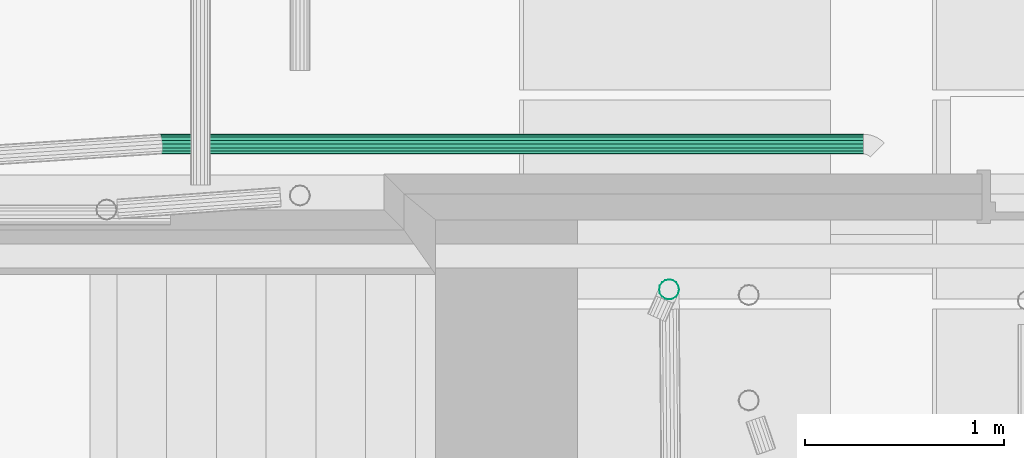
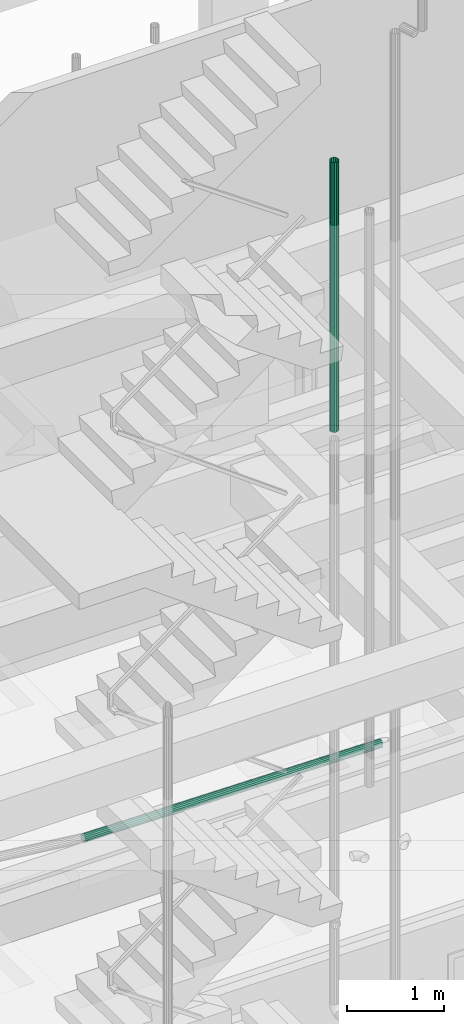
# One storey, part 53 of 106: 2 flow segments.
"""IFC2X3 building model written with IfcOpenShell, lengths in metres."""

from ifc_helpers import new_model, entity, si_unit, converted_unit, derived_unit, money_unit, direction, frame, origin_with_axes, place, context, subcontext, project, spatial, faceted_brep, material, type_object, element, save


model = new_model("IFC2X3")

# Units and contexts
model_context = context("Model", 3, precision=1e-05, world=origin_with_axes(), true_north=direction((0.0, 1.0)))
body_context = subcontext(model_context, "Body", "Model", "MODEL_VIEW", scale=1.0)
ifc_project = project(units=[si_unit("LENGTHUNIT", "METRE"), si_unit("AREAUNIT", "SQUARE_METRE"), si_unit("VOLUMEUNIT", "CUBIC_METRE"), si_unit("ABSORBEDDOSEUNIT", "GRAY"), si_unit("AMOUNTOFSUBSTANCEUNIT", "MOLE"), si_unit("DOSEEQUIVALENTUNIT", "SIEVERT"), si_unit("ELECTRICCAPACITANCEUNIT", "FARAD"), si_unit("ELECTRICCHARGEUNIT", "COULOMB"), si_unit("ELECTRICCONDUCTANCEUNIT", "SIEMENS"), si_unit("ELECTRICCURRENTUNIT", "AMPERE"), si_unit("ELECTRICRESISTANCEUNIT", "OHM"), si_unit("ELECTRICVOLTAGEUNIT", "VOLT"), si_unit("ENERGYUNIT", "JOULE"), si_unit("FORCEUNIT", "NEWTON"), si_unit("FREQUENCYUNIT", "HERTZ"), si_unit("ILLUMINANCEUNIT", "LUX"), si_unit("INDUCTANCEUNIT", "HENRY"), si_unit("LUMINOUSFLUXUNIT", "LUMEN"), si_unit("LUMINOUSINTENSITYUNIT", "CANDELA"), si_unit("MAGNETICFLUXDENSITYUNIT", "TESLA"), si_unit("MAGNETICFLUXUNIT", "WEBER"), si_unit("MASSUNIT", "GRAM"), converted_unit("PLANEANGLEUNIT", "degree", entity("IfcReal", 0.0174532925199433), si_unit("PLANEANGLEUNIT", "RADIAN"), dimensions=[0, 0, 0, 0, 0, 0, 0]), si_unit("POWERUNIT", "WATT"), si_unit("PRESSUREUNIT", "PASCAL"), si_unit("RADIOACTIVITYUNIT", "BECQUEREL"), si_unit("SOLIDANGLEUNIT", "STERADIAN"), si_unit("THERMODYNAMICTEMPERATUREUNIT", "KELVIN"), si_unit("TIMEUNIT", "SECOND"), derived_unit("ACCELERATIONUNIT", [(si_unit("LENGTHUNIT", "METRE"), 1), (si_unit("TIMEUNIT", "SECOND"), -2)]), derived_unit("ANGULARVELOCITYUNIT", [(converted_unit("PLANEANGLEUNIT", "degree", entity("IfcReal", 0.0174532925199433), si_unit("PLANEANGLEUNIT", "RADIAN"), dimensions=[0, 0, 0, 0, 0, 0, 0]), 1), (si_unit("TIMEUNIT", "SECOND"), -1)]), derived_unit("CURVATUREUNIT", [(converted_unit("PLANEANGLEUNIT", "degree", entity("IfcReal", 0.0174532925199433), si_unit("PLANEANGLEUNIT", "RADIAN"), dimensions=[0, 0, 0, 0, 0, 0, 0]), 1), (si_unit("LENGTHUNIT", "METRE"), -1)]), derived_unit("DYNAMICVISCOSITYUNIT", [(si_unit("PRESSUREUNIT", "PASCAL"), 1), (si_unit("TIMEUNIT", "SECOND"), 1)]), derived_unit("HEATFLUXDENSITYUNIT", [(si_unit("POWERUNIT", "WATT"), 1), (si_unit("LENGTHUNIT", "METRE"), -2)]), derived_unit("HEATINGVALUEUNIT", [(si_unit("ENERGYUNIT", "JOULE"), 1), (si_unit("MASSUNIT", "GRAM"), -1)]), derived_unit("INTEGERCOUNTRATEUNIT", [(si_unit("TIMEUNIT", "SECOND"), -1)]), derived_unit("IONCONCENTRATIONUNIT", [(si_unit("MASSUNIT", "GRAM"), 1), (si_unit("VOLUMEUNIT", "CUBIC_METRE"), -1)]), derived_unit("ISOTHERMALMOISTURECAPACITYUNIT", [(si_unit("VOLUMEUNIT", "CUBIC_METRE"), 1), (si_unit("MASSUNIT", "GRAM"), -1)]), derived_unit("KINEMATICVISCOSITYUNIT", [(si_unit("AREAUNIT", "SQUARE_METRE"), 1), (si_unit("TIMEUNIT", "SECOND"), -1)]), derived_unit("LINEARFORCEUNIT", [(si_unit("FORCEUNIT", "NEWTON"), 1), (si_unit("LENGTHUNIT", "METRE"), -1)]), derived_unit("LINEARMOMENTUNIT", [(si_unit("FORCEUNIT", "NEWTON"), 1), (si_unit("LENGTHUNIT", "METRE"), -1)]), derived_unit("LINEARSTIFFNESSUNIT", [(si_unit("FORCEUNIT", "NEWTON"), 1), (si_unit("LENGTHUNIT", "METRE"), -1)]), derived_unit("LINEARVELOCITYUNIT", [(si_unit("LENGTHUNIT", "METRE"), 1), (si_unit("TIMEUNIT", "SECOND"), -1)]), derived_unit("LUMINOUSINTENSITYDISTRIBUTIONUNIT", [(si_unit("LUMINOUSINTENSITYUNIT", "CANDELA"), 1), (si_unit("LUMINOUSFLUXUNIT", "LUMEN"), -1)]), derived_unit("MASSDENSITYUNIT", [(si_unit("MASSUNIT", "GRAM"), 1), (si_unit("VOLUMEUNIT", "CUBIC_METRE"), -1)]), derived_unit("MASSFLOWRATEUNIT", [(si_unit("MASSUNIT", "GRAM"), 1), (si_unit("TIMEUNIT", "SECOND"), -1)]), derived_unit("MASSPERLENGTHUNIT", [(si_unit("MASSUNIT", "GRAM"), 1), (si_unit("LENGTHUNIT", "METRE"), -1)]), derived_unit("MODULUSOFELASTICITYUNIT", [(si_unit("FORCEUNIT", "NEWTON"), 1), (si_unit("AREAUNIT", "SQUARE_METRE"), -1)]), derived_unit("MODULUSOFLINEARSUBGRADEREACTIONUNIT", [(si_unit("FORCEUNIT", "NEWTON"), 1), (si_unit("LENGTHUNIT", "METRE"), -2)]), derived_unit("MODULUSOFROTATIONALSUBGRADEREACTIONUNIT", [(si_unit("FORCEUNIT", "NEWTON"), 1), (si_unit("LENGTHUNIT", "METRE"), 1)]), derived_unit("MODULUSOFSUBGRADEREACTIONUNIT", [(si_unit("FORCEUNIT", "NEWTON"), 1), (si_unit("VOLUMEUNIT", "CUBIC_METRE"), -1)]), derived_unit("MOISTUREDIFFUSIVITYUNIT", [(si_unit("VOLUMEUNIT", "CUBIC_METRE"), 1), (si_unit("TIMEUNIT", "SECOND"), -1)]), derived_unit("MOLECULARWEIGHTUNIT", [(si_unit("MASSUNIT", "GRAM"), 1), (si_unit("AMOUNTOFSUBSTANCEUNIT", "MOLE"), -1)]), derived_unit("PLANARFORCEUNIT", [(si_unit("FORCEUNIT", "NEWTON"), 1), (si_unit("LENGTHUNIT", "METRE"), -2)]), derived_unit("ROTATIONALFREQUENCYUNIT", [(si_unit("TIMEUNIT", "SECOND"), -1)]), derived_unit("ROTATIONALMASSUNIT", [(si_unit("MASSUNIT", "GRAM"), 1), (si_unit("LENGTHUNIT", "METRE"), 2)]), derived_unit("ROTATIONALSTIFFNESSUNIT", [(si_unit("FORCEUNIT", "NEWTON"), 1), (si_unit("LENGTHUNIT", "METRE"), 1), (converted_unit("PLANEANGLEUNIT", "degree", entity("IfcReal", 0.0174532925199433), si_unit("PLANEANGLEUNIT", "RADIAN"), dimensions=[0, 0, 0, 0, 0, 0, 0]), -1)]), derived_unit("SECTIONAREAINTEGRALUNIT", [(si_unit("LENGTHUNIT", "METRE"), 5)]), derived_unit("SECTIONMODULUSUNIT", [(si_unit("LENGTHUNIT", "METRE"), 3)]), derived_unit("SHEARMODULUSUNIT", [(si_unit("FORCEUNIT", "NEWTON"), 1), (si_unit("AREAUNIT", "SQUARE_METRE"), -1)]), derived_unit("SOUNDPOWERUNIT", [(si_unit("ENERGYUNIT", "JOULE"), 1), (si_unit("TIMEUNIT", "SECOND"), -1)]), derived_unit("SPECIFICHEATCAPACITYUNIT", [(si_unit("FORCEUNIT", "NEWTON"), 1), (si_unit("MASSUNIT", "GRAM"), -1), (si_unit("THERMODYNAMICTEMPERATUREUNIT", "KELVIN"), -1)]), derived_unit("TEMPERATUREGRADIENTUNIT", [(si_unit("THERMODYNAMICTEMPERATUREUNIT", "KELVIN"), 1), (si_unit("LENGTHUNIT", "METRE"), -1)]), derived_unit("THERMALADMITTANCEUNIT", [(si_unit("POWERUNIT", "WATT"), 1), (si_unit("AREAUNIT", "SQUARE_METRE"), -1), (si_unit("THERMODYNAMICTEMPERATUREUNIT", "KELVIN"), -1)]), derived_unit("THERMALCONDUCTANCEUNIT", [(si_unit("POWERUNIT", "WATT"), 1), (si_unit("LENGTHUNIT", "METRE"), -1), (si_unit("THERMODYNAMICTEMPERATUREUNIT", "KELVIN"), -1)]), derived_unit("THERMALEXPANSIONCOEFFICIENTUNIT", [(si_unit("THERMODYNAMICTEMPERATUREUNIT", "KELVIN"), -1)]), derived_unit("THERMALRESISTANCEUNIT", [(si_unit("AREAUNIT", "SQUARE_METRE"), 1), (si_unit("POWERUNIT", "WATT"), -1)]), derived_unit("THERMALTRANSMITTANCEUNIT", [(si_unit("POWERUNIT", "WATT"), 1), (si_unit("AREAUNIT", "SQUARE_METRE"), -1), (si_unit("THERMODYNAMICTEMPERATUREUNIT", "KELVIN"), -1)]), derived_unit("TORQUEUNIT", [(si_unit("FORCEUNIT", "NEWTON"), 1), (si_unit("LENGTHUNIT", "METRE"), 1)]), derived_unit("VAPORPERMEABILITYUNIT", [(si_unit("MASSUNIT", "GRAM"), 1), (si_unit("TIMEUNIT", "SECOND"), -1)]), derived_unit("VOLUMETRICFLOWRATEUNIT", [(si_unit("VOLUMEUNIT", "CUBIC_METRE"), 1), (si_unit("TIMEUNIT", "SECOND"), -1)]), derived_unit("WARPINGCONSTANTUNIT", [(si_unit("LENGTHUNIT", "METRE"), 6)]), derived_unit("WARPINGMOMENTUNIT", [(si_unit("FORCEUNIT", "NEWTON"), 1), (si_unit("LENGTHUNIT", "METRE"), 2)]), money_unit("GBP")], contexts=[model_context])

# Site, building, storey
site_placement = place(None, origin_with_axes())
site = spatial("IfcSite", under=ifc_project, at=site_placement, Name="Site", CompositionType="ELEMENT")
building_placement = place(site_placement, origin_with_axes())
building = spatial("IfcBuilding", under=site, at=building_placement, Name="Building01", CompositionType="ELEMENT")
storey_placement = place(building_placement, origin_with_axes())
storey = spatial("IfcBuildingStorey", under=building, at=storey_placement, Name="GF", CompositionType="ELEMENT", Elevation=0.0)

# Flow segments
ifc_material = material(Name="M_BSUK_ColdWater")
pipe_segment_type = type_object("IfcPipeSegmentType", Name="M-BmpStraightpipe-DefaultPipe", PredefinedType="RIGIDSEGMENT")
flow_segment_1_placement = place(storey_placement, frame((13.049996, 9.303054, 4.827344), z_axis=(0.01249902, 0.0, 0.99992188), x_axis=(0.99992188, 0.0, -0.01249902)))
element("IfcFlowSegment", 1, at=flow_segment_1_placement, inside=storey, type_object=pipe_segment_type, material=ifc_material, Name="M-BmpStraightpipe-DefaultPipe", ObjectType="M-BmpStraightpipe-DefaultPipe", context=body_context, shape_type="Brep", body=[
    faceted_brep([(3.529669, 0.0, -0.05), (0.0, 0.0, -0.05), (0.0, 0.019134, -0.046194), (3.529669, 0.019134, -0.046194), (0.0, 0.035355, -0.035355), (3.529669, 0.035355, -0.035355), (0.0, 0.046194, -0.019134), (3.529669, 0.046194, -0.019134), (0.0, 0.05, 0.0), (3.529669, 0.05, 0.0), (0.0, 0.046194, 0.019134), (3.529669, 0.046194, 0.019134), (0.0, 0.035355, 0.035355), (3.529669, 0.035355, 0.035355), (0.0, 0.019134, 0.046194), (3.529669, 0.019134, 0.046194), (0.0, 0.0, 0.05), (3.529669, 0.0, 0.05), (0.0, -0.019134, 0.046194), (3.529669, -0.019134, 0.046194), (0.0, -0.035355, 0.035355), (3.529669, -0.035355, 0.035355), (0.0, -0.046194, 0.019134), (3.529669, -0.046194, 0.019134), (0.0, -0.05, 0.0), (3.529669, -0.05, 0.0), (0.0, -0.046194, -0.019134), (3.529669, -0.046194, -0.019134), (0.0, -0.035355, -0.035355), (3.529669, -0.035355, -0.035355), (0.0, -0.019134, -0.046194), (3.529669, -0.019134, -0.046194)], [[[0, 1, 2, 3]], [[3, 2, 4, 5]], [[5, 4, 6, 7]], [[7, 6, 8, 9]], [[9, 8, 10, 11]], [[11, 10, 12, 13]], [[13, 12, 14, 15]], [[15, 14, 16, 17]], [[17, 16, 18, 19]], [[19, 18, 20, 21]], [[21, 20, 22, 23]], [[23, 22, 24, 25]], [[25, 24, 26, 27]], [[27, 26, 28, 29]], [[29, 28, 30, 31]], [[31, 30, 1, 0]]]),
])
flow_segment_2_placement = place(storey_placement, frame((15.604265, 8.57241, 12.874919), z_axis=(1.0, 0.0, 0.0), x_axis=(0.0, 0.0, -1.0)))
element("IfcFlowSegment", 2, at=flow_segment_2_placement, inside=storey, type_object=pipe_segment_type, material=ifc_material, Name="M-BmpStraightpipe-DefaultPipe", ObjectType="M-BmpStraightpipe-DefaultPipe", context=body_context, shape_type="Brep", body=[
    faceted_brep([(3.379988, 0.0, -0.05), (0.0, 0.0, -0.05), (0.0, 0.019134, -0.046194), (3.379988, 0.019134, -0.046194), (0.0, 0.035355, -0.035355), (3.379988, 0.035355, -0.035355), (0.0, 0.046194, -0.019134), (3.379988, 0.046194, -0.019134), (0.0, 0.05, 0.0), (3.379988, 0.05, 0.0), (0.0, 0.046194, 0.019134), (3.379988, 0.046194, 0.019134), (0.0, 0.035355, 0.035355), (3.379988, 0.035355, 0.035355), (0.0, 0.019134, 0.046194), (3.379988, 0.019134, 0.046194), (0.0, 0.0, 0.05), (3.379988, 0.0, 0.05), (0.0, -0.019134, 0.046194), (3.379988, -0.019134, 0.046194), (0.0, -0.035355, 0.035355), (3.379988, -0.035355, 0.035355), (0.0, -0.046194, 0.019134), (3.379988, -0.046194, 0.019134), (0.0, -0.05, 0.0), (3.379988, -0.05, 0.0), (0.0, -0.046194, -0.019134), (3.379988, -0.046194, -0.019134), (0.0, -0.035355, -0.035355), (3.379988, -0.035355, -0.035355), (0.0, -0.019134, -0.046194), (3.379988, -0.019134, -0.046194)], [[[0, 1, 2, 3]], [[3, 2, 4, 5]], [[5, 4, 6, 7]], [[7, 6, 8, 9]], [[9, 8, 10, 11]], [[11, 10, 12, 13]], [[13, 12, 14, 15]], [[15, 14, 16, 17]], [[17, 16, 18, 19]], [[19, 18, 20, 21]], [[21, 20, 22, 23]], [[23, 22, 24, 25]], [[25, 24, 26, 27]], [[27, 26, 28, 29]], [[29, 28, 30, 31]], [[31, 30, 1, 0]]]),
])

save(model, "model.ifc")
